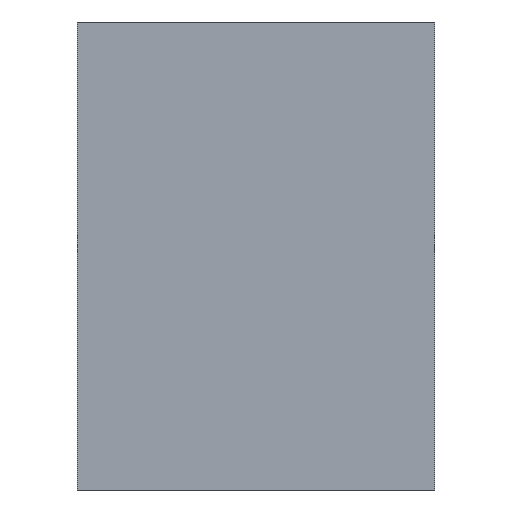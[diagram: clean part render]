
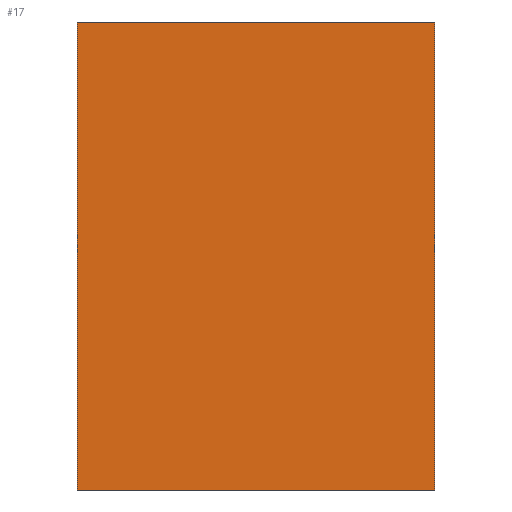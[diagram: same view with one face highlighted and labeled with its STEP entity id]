
A CAD part, left-side view. The second image highlights one B-rep face of the part: STEP entity #17.
In plain terms, the highlighted planar face has unit normal (-1, 0, 0).
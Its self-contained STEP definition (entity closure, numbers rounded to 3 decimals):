
#17 = ADVANCED_FACE('',(#18),#32,.F.);
#18 = FACE_BOUND('',#19,.F.);
#19 = EDGE_LOOP('',(#20,#55,#83,#111));
#20 = ORIENTED_EDGE('',*,*,#21,.F.);
#21 = EDGE_CURVE('',#22,#24,#26,.T.);
#22 = VERTEX_POINT('',#23);
#23 = CARTESIAN_POINT('',(9.,21.,-9.));
#24 = VERTEX_POINT('',#25);
#25 = CARTESIAN_POINT('',(9.,21.,25.));
#26 = SURFACE_CURVE('',#27,(#31,#43),.PCURVE_S1.);
#27 = LINE('',#28,#29);
#28 = CARTESIAN_POINT('',(9.,21.,-9.));
#29 = VECTOR('',#30,1.);
#30 = DIRECTION('',(0.,0.,1.));
#31 = PCURVE('',#32,#37);
#32 = PLANE('',#33);
#33 = AXIS2_PLACEMENT_3D('',#34,#35,#36);
#34 = CARTESIAN_POINT('',(9.,21.,-9.));
#35 = DIRECTION('',(1.,0.,0.));
#36 = DIRECTION('',(0.,0.,1.));
#37 = DEFINITIONAL_REPRESENTATION('',(#38),#42);
#38 = LINE('',#39,#40);
#39 = CARTESIAN_POINT('',(0.,0.));
#40 = VECTOR('',#41,1.);
#41 = DIRECTION('',(1.,0.));
#42 = ( GEOMETRIC_REPRESENTATION_CONTEXT(2) 
PARAMETRIC_REPRESENTATION_CONTEXT() REPRESENTATION_CONTEXT('2D SPACE',''
  ) );
#43 = PCURVE('',#44,#49);
#44 = PLANE('',#45);
#45 = AXIS2_PLACEMENT_3D('',#46,#47,#48);
#46 = CARTESIAN_POINT('',(9.,21.,-9.));
#47 = DIRECTION('',(0.,1.,0.));
#48 = DIRECTION('',(0.,0.,1.));
#49 = DEFINITIONAL_REPRESENTATION('',(#50),#54);
#50 = LINE('',#51,#52);
#51 = CARTESIAN_POINT('',(0.,0.));
#52 = VECTOR('',#53,1.);
#53 = DIRECTION('',(1.,0.));
#54 = ( GEOMETRIC_REPRESENTATION_CONTEXT(2) 
PARAMETRIC_REPRESENTATION_CONTEXT() REPRESENTATION_CONTEXT('2D SPACE',''
  ) );
#55 = ORIENTED_EDGE('',*,*,#56,.T.);
#56 = EDGE_CURVE('',#22,#57,#59,.T.);
#57 = VERTEX_POINT('',#58);
#58 = CARTESIAN_POINT('',(9.,47.,-9.));
#59 = SURFACE_CURVE('',#60,(#64,#71),.PCURVE_S1.);
#60 = LINE('',#61,#62);
#61 = CARTESIAN_POINT('',(9.,21.,-9.));
#62 = VECTOR('',#63,1.);
#63 = DIRECTION('',(0.,1.,0.));
#64 = PCURVE('',#32,#65);
#65 = DEFINITIONAL_REPRESENTATION('',(#66),#70);
#66 = LINE('',#67,#68);
#67 = CARTESIAN_POINT('',(0.,0.));
#68 = VECTOR('',#69,1.);
#69 = DIRECTION('',(0.,-1.));
#70 = ( GEOMETRIC_REPRESENTATION_CONTEXT(2) 
PARAMETRIC_REPRESENTATION_CONTEXT() REPRESENTATION_CONTEXT('2D SPACE',''
  ) );
#71 = PCURVE('',#72,#77);
#72 = PLANE('',#73);
#73 = AXIS2_PLACEMENT_3D('',#74,#75,#76);
#74 = CARTESIAN_POINT('',(9.,21.,-9.));
#75 = DIRECTION('',(0.,0.,1.));
#76 = DIRECTION('',(1.,0.,0.));
#77 = DEFINITIONAL_REPRESENTATION('',(#78),#82);
#78 = LINE('',#79,#80);
#79 = CARTESIAN_POINT('',(0.,0.));
#80 = VECTOR('',#81,1.);
#81 = DIRECTION('',(0.,1.));
#82 = ( GEOMETRIC_REPRESENTATION_CONTEXT(2) 
PARAMETRIC_REPRESENTATION_CONTEXT() REPRESENTATION_CONTEXT('2D SPACE',''
  ) );
#83 = ORIENTED_EDGE('',*,*,#84,.T.);
#84 = EDGE_CURVE('',#57,#85,#87,.T.);
#85 = VERTEX_POINT('',#86);
#86 = CARTESIAN_POINT('',(9.,47.,25.));
#87 = SURFACE_CURVE('',#88,(#92,#99),.PCURVE_S1.);
#88 = LINE('',#89,#90);
#89 = CARTESIAN_POINT('',(9.,47.,-9.));
#90 = VECTOR('',#91,1.);
#91 = DIRECTION('',(0.,0.,1.));
#92 = PCURVE('',#32,#93);
#93 = DEFINITIONAL_REPRESENTATION('',(#94),#98);
#94 = LINE('',#95,#96);
#95 = CARTESIAN_POINT('',(0.,-26.));
#96 = VECTOR('',#97,1.);
#97 = DIRECTION('',(1.,0.));
#98 = ( GEOMETRIC_REPRESENTATION_CONTEXT(2) 
PARAMETRIC_REPRESENTATION_CONTEXT() REPRESENTATION_CONTEXT('2D SPACE',''
  ) );
#99 = PCURVE('',#100,#105);
#100 = PLANE('',#101);
#101 = AXIS2_PLACEMENT_3D('',#102,#103,#104);
#102 = CARTESIAN_POINT('',(9.,47.,-9.));
#103 = DIRECTION('',(0.,1.,0.));
#104 = DIRECTION('',(0.,0.,1.));
#105 = DEFINITIONAL_REPRESENTATION('',(#106),#110);
#106 = LINE('',#107,#108);
#107 = CARTESIAN_POINT('',(0.,0.));
#108 = VECTOR('',#109,1.);
#109 = DIRECTION('',(1.,0.));
#110 = ( GEOMETRIC_REPRESENTATION_CONTEXT(2) 
PARAMETRIC_REPRESENTATION_CONTEXT() REPRESENTATION_CONTEXT('2D SPACE',''
  ) );
#111 = ORIENTED_EDGE('',*,*,#112,.F.);
#112 = EDGE_CURVE('',#24,#85,#113,.T.);
#113 = SURFACE_CURVE('',#114,(#118,#125),.PCURVE_S1.);
#114 = LINE('',#115,#116);
#115 = CARTESIAN_POINT('',(9.,21.,25.));
#116 = VECTOR('',#117,1.);
#117 = DIRECTION('',(0.,1.,0.));
#118 = PCURVE('',#32,#119);
#119 = DEFINITIONAL_REPRESENTATION('',(#120),#124);
#120 = LINE('',#121,#122);
#121 = CARTESIAN_POINT('',(34.,0.));
#122 = VECTOR('',#123,1.);
#123 = DIRECTION('',(0.,-1.));
#124 = ( GEOMETRIC_REPRESENTATION_CONTEXT(2) 
PARAMETRIC_REPRESENTATION_CONTEXT() REPRESENTATION_CONTEXT('2D SPACE',''
  ) );
#125 = PCURVE('',#126,#131);
#126 = PLANE('',#127);
#127 = AXIS2_PLACEMENT_3D('',#128,#129,#130);
#128 = CARTESIAN_POINT('',(9.,21.,25.));
#129 = DIRECTION('',(0.,0.,1.));
#130 = DIRECTION('',(1.,0.,0.));
#131 = DEFINITIONAL_REPRESENTATION('',(#132),#136);
#132 = LINE('',#133,#134);
#133 = CARTESIAN_POINT('',(0.,0.));
#134 = VECTOR('',#135,1.);
#135 = DIRECTION('',(0.,1.));
#136 = ( GEOMETRIC_REPRESENTATION_CONTEXT(2) 
PARAMETRIC_REPRESENTATION_CONTEXT() REPRESENTATION_CONTEXT('2D SPACE',''
  ) );
